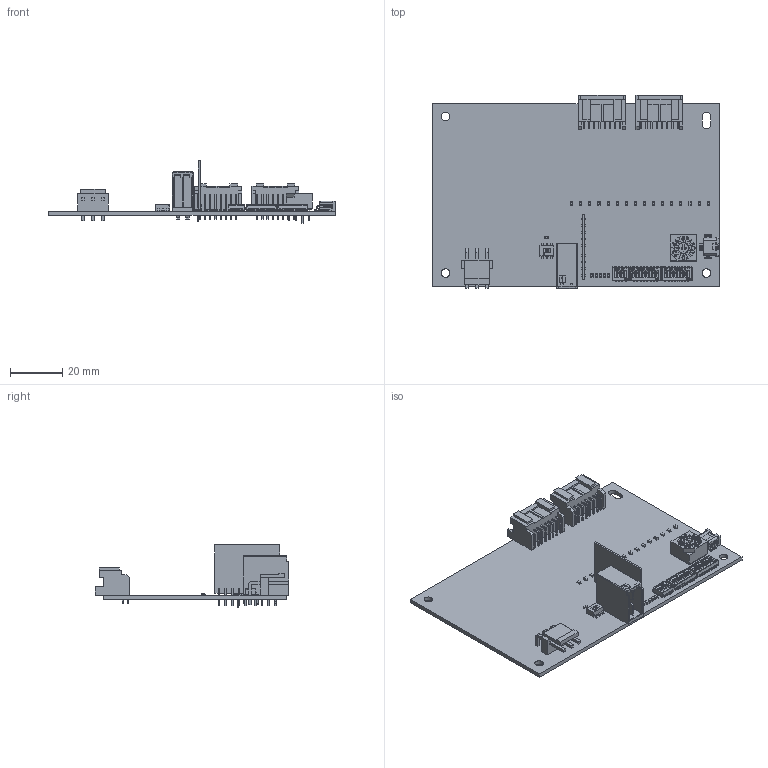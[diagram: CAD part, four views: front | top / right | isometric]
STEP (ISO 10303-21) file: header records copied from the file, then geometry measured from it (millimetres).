
FILE_DESCRIPTION (( 'STEP AP203' ), '1' );
FILE_NAME ('RI-C5-D_260205.STEP', '2026-02-05T07:36:07', ( '' ), ( '' ), 'SwSTEP 2.0', 'SolidWorks 2022', '' );
FILE_SCHEMA (( 'CONFIG_CONTROL_DESIGN' ));
Length unit declared in the file: millimetre
Products named in the file (22): _2_pole_s_4; PCB_5545-71_171121; CHS-04-J-body; CHS-04TA; _CAS_c_22B_2; PCB_RICU_D-1x_230724; レセプタクル_MQ172X-4PA-(66); _CHS_slider_4; _CHS_08_J_body_2; S16B-PADSS-1; コネクタ_B3PS-VH; c-1-1827583-2-c-3d; CHS-slider; ディップスイッチ_CHS-08TA; ロータリスイッチ_S-1010A_0(ﾃﾞﾌｫﾙﾄ); LED_SML-310LT; LED_SML-310MT; LED_SML-310YT; ディップスイッチ_CAS_220TB; ロータリスイッチ_S-1010A_p01; ロータリスイッチ_S-1010A_p02; RI-C5-D_260205
Assembly tree (52 placements, depth 3):
  RI-C5-D_260205
    PCB_RICU_D-1x_230724
    コネクタ_B3PS-VH
    c-1-1827583-2-c-3d
    S16B-PADSS-1  x2
    レセプタクル_MQ172X-4PA-(66)
    ディップスイッチ_CAS_220TB
      _CAS_c_22B_2
      _2_pole_s_4
    ディップスイッチ_CHS-08TA  x2
      _CHS_08_J_body_2
      _CHS_slider_4
    CHS-04TA
      CHS-slider  x4
      CHS-04-J-body
    ロータリスイッチ_S-1010A_0(ﾃﾞﾌｫﾙﾄ)
      ロータリスイッチ_S-1010A_p01
      ロータリスイッチ_S-1010A_p02
    LED_SML-310MT  x20
    PCB_5545-71_171121
    LED_SML-310YT
    LED_SML-310LT
Bounding box: 110 x 74.21 x 23.8 mm (x, y, z)
Volume: 17425.7 mm3; surface area: 24882.4 mm2
Topology: 77 solids, 86 shells, 3638 faces, 9858 edges, 6534 vertices
Faces by surface type: plane 2780, cylinder 741, bspline 97, torus 16, cone 4
Entity records: 83717 total; most frequent: CARTESIAN_POINT 20164, ORIENTED_EDGE 12892, DIRECTION 11699, EDGE_CURVE 6574, LINE 5429, VECTOR 5429, VERTEX_POINT 4358, AXIS2_PLACEMENT_3D 3135
